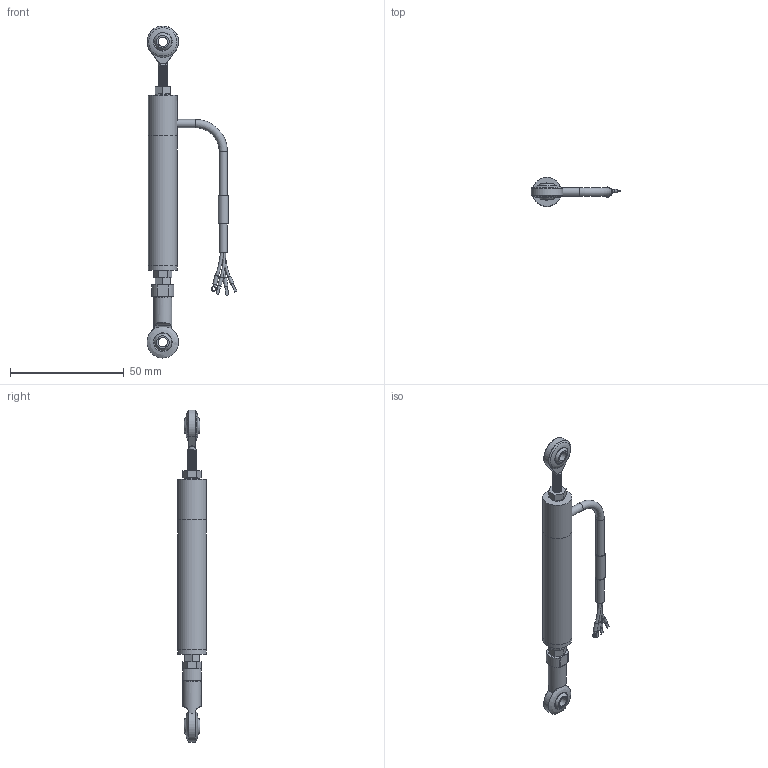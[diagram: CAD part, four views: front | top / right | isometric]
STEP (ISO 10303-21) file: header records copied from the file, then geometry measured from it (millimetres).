
FILE_DESCRIPTION(/* description */ (''),/* implementation_level */ '2;1');
FILE_NAME(/* name */ 'LPPS-12-015-R Assembly (wrapped).step',/* time_stamp */ '2023-10-10T14:07:45-04:00',/* author */ ('TSC_Grant'),/* organization */ (''),/* preprocessor_version */ 'ST-DEVELOPER v19.2',/* originating_system */ 'Autodesk Inventor 2024',/* authorisation */ '');
FILE_SCHEMA (('AUTOMOTIVE_DESIGN { 1 0 10303 214 3 1 1 }'));
Length unit declared in the file: inch
Products named in the file (4): LPPS-12-010-R Assembly (wrapped); LPPS-12-010-R Body (wrapped); LPPS-12-010-R Spoiler (wrapped); Wire
Assembly tree (3 placements, depth 2):
  LPPS-12-010-R Assembly (wrapped)
    LPPS-12-010-R Body (wrapped)
    LPPS-12-010-R Spoiler (wrapped)
    Wire
Bounding box: 39.48 x 12.7 x 145.7 mm (x, y, z)
Volume: 12689.9 mm3; surface area: 8408.2 mm2
Topology: 13 solids, 13 shells, 200 faces, 462 edges, 306 vertices
Faces by surface type: plane 94, cylinder 74, bspline 21, torus 7, sphere 4
Full cylindrical faces by diameter (mm): 1.016 x3, 1.27 x1, 1.524 x3, 1.651 x2, 3.632 x5, 3.937 x14, 4.14 x2, 4.191 x1, 4.445 x1, 6.604 x1, 8.001 x1, 12.7 x3
Entity records: 9510 total; most frequent: CARTESIAN_POINT 4641, ORIENTED_EDGE 924, DIRECTION 895, EDGE_CURVE 462, AXIS2_PLACEMENT_3D 345, VERTEX_POINT 306, EDGE_LOOP 228, LINE 205
